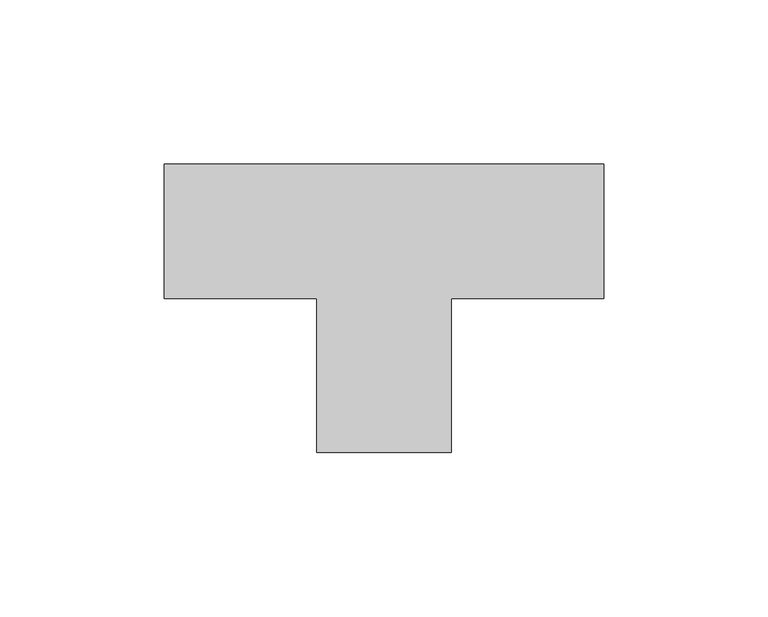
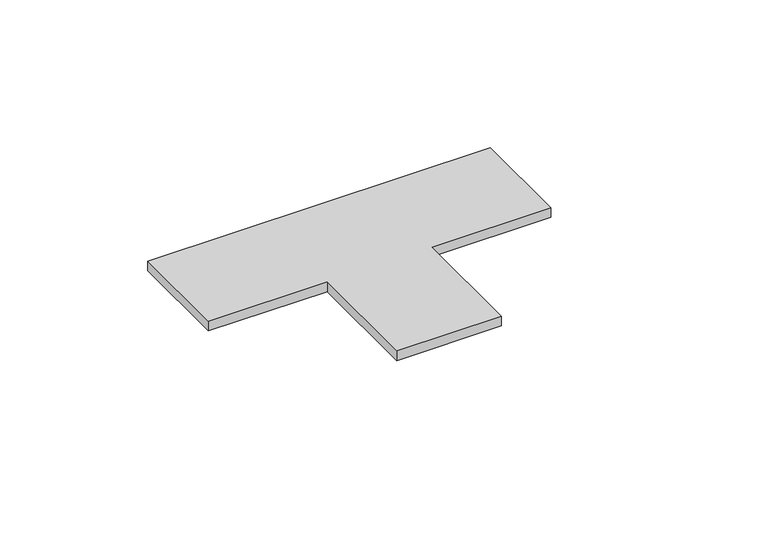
"""IFC4 building model written with IfcOpenShell, lengths in millimetres: proxy geometry, 4182B_Accessory-Basorfix : Basorfix 4182B GC70."""

from ifc_helpers import new_model, si_unit, origin, origin_with_axes, place, context, project, spatial, polyline, outline, extrude, source, transform, mapped, element, save


def generic_models_0723fddf(model_context):
    return source(origin(), model_context, "Body", "SweptSolid", [
        extrude(outline(polyline([(67.0040181, -20.4842733), (20.488754, -20.4842733), (20.488754, -67.5157267), (-20.488754, -67.5157267), (-20.488754, -20.4842733), (-67.0040181, -20.4842733), (-67.0040181, 20.4842733), (67.0040181, 20.4842733), (67.0040181, -20.4842733)])), origin_with_axes(), (0.0, 0.0, 1.0), 4.0),
    ])


if __name__ == "__main__":
    model = new_model("IFC4")
    model_context = context("Model", 3, world=origin())
    ifc_project = project(units=[si_unit("LENGTHUNIT", "METRE", prefix="MILLI")], contexts=[model_context])
    site = spatial("IfcSite", under=ifc_project)
    building = spatial("IfcBuilding", under=site)
    placement = place(None, origin())
    generic_models_shape = generic_models_0723fddf(model_context)
    element("IfcBuildingElementProxy", 1, Name="4182B_Accessory-Basorfix : Basorfix 4182B GC70", ObjectType="4182B_Accessory-Basorfix : Basorfix 4182B GC70", at=placement, inside=building, context=model_context, shape_type="MappedRepresentation", body=[
        mapped(generic_models_shape, transform((0.0, 0.0, 0.0), x_axis=(1.0, 0.0, 0.0), y_axis=(0.0, 1.0, 0.0), z_axis=(0.0, 0.0, 1.0))),
    ])
    save(model, "model.ifc")
